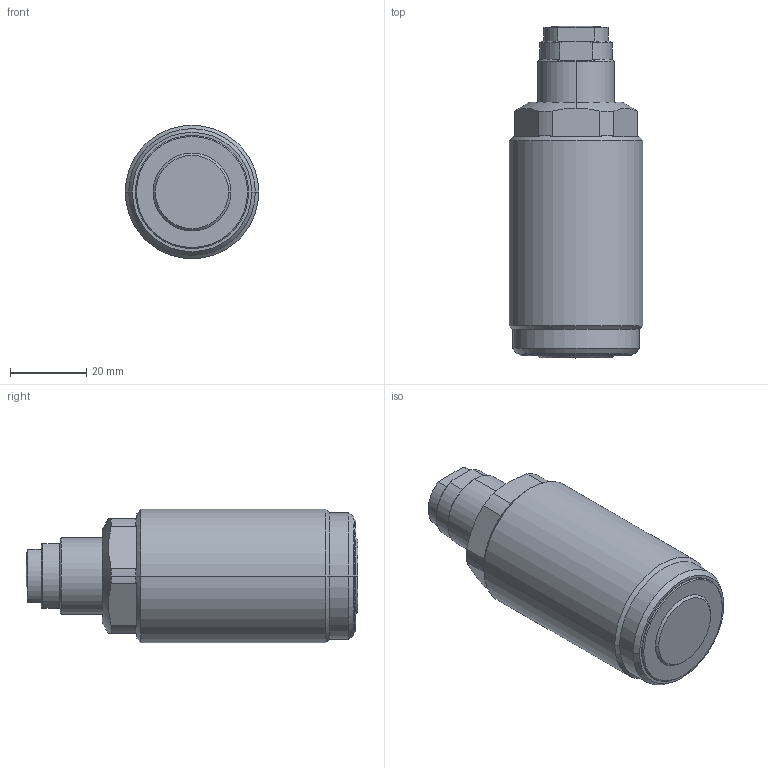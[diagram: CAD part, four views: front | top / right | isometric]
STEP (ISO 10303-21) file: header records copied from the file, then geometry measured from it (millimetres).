
FILE_DESCRIPTION(/* description */ (''),/* implementation_level */ '2;1');
FILE_NAME(/* name */ 'PGSS10-L.stp',/* time_stamp */ '2025-01-05T11:03:47+08:00',/* author */ (''),/* organization */ (''),/* preprocessor_version */ 'ST-DEVELOPER v16.7',/* originating_system */ 'SIEMENS PLM Software NX 12.0',/* authorisation */ '');
FILE_SCHEMA (('AUTOMOTIVE_DESIGN { 1 0 10303 214 3 1 1 1 }'));
Length unit declared in the file: millimetre
Products named in the file (4): PGSS10-L-03; PGSS10-L-02; PGSS10-L-01; CSV10M-L_step
Assembly tree (3 placements, depth 2):
  CSV10M-L_step
    PGSS10-L-01
    PGSS10-L-02
    PGSS10-L-03
Bounding box: 35 x 87 x 35 mm (x, y, z)
Volume: 62572.1 mm3; surface area: 12430.2 mm2
Topology: 3 solids, 3 shells, 88 faces, 204 edges, 128 vertices
Faces by surface type: cylinder 31, plane 29, cone 22, torus 4, sphere 2
Entity records: 2655 total; most frequent: CARTESIAN_POINT 516, DIRECTION 463, ORIENTED_EDGE 408, EDGE_CURVE 204, AXIS2_PLACEMENT_3D 195, VERTEX_POINT 128, CIRCLE 103, EDGE_LOOP 96
